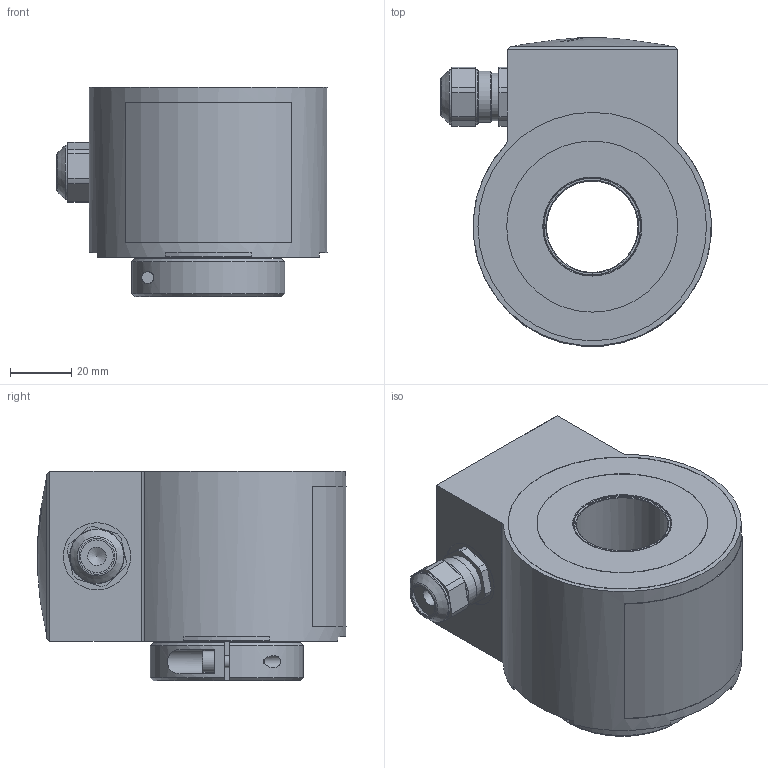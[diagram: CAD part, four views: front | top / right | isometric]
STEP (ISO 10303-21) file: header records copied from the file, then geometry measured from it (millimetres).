
FILE_DESCRIPTION (( 'STEP AP214' ), '1' );
FILE_NAME ('HW730.STEP', '2013-04-29T09:33:43', ( 'inst' ), ( '' ), 'SwSTEP 2.0', 'SolidWorks 2013', '' );
FILE_SCHEMA (( 'AUTOMOTIVE_DESIGN' ));
Length unit declared in the file: millimetre
Products named in the file (1): HW730
Bounding box: 88.46 x 100.87 x 68.58 mm (x, y, z)
Volume: 311522.9 mm3; surface area: 53245.6 mm2
Topology: 3 solids, 3 shells, 231 faces, 542 edges, 348 vertices
Faces by surface type: plane 107, cylinder 67, cone 47, bspline 6, torus 3, sphere 1
Full cylindrical faces by diameter (mm): 3.3 x6, 3.95 x1, 4 x2, 6 x1, 7 x1, 10.7 x1, 12 x1, 12.1 x1, 13.5 x1, 13.93 x1, 14.5 x1, 15.59 x1, 16 x2, 16.2 x1, 16.79 x1, 17.8 x2, 22 x1, 30 x1, 32 x2, 32.001 x1, 40 x1, 43.4 x1, 45 x2, 51.5 x1, 52 x1, 55.5 x1, 56 x2, 74.8 x1
Entity records: 9448 total; most frequent: CARTESIAN_POINT 2016, DIRECTION 1011, ORIENTED_EDGE 874, EDGE_CURVE 437, AXIS2_PLACEMENT_3D 412, EDGE_LOOP 347, VERTEX_POINT 322, FACE_OUTER_BOUND 280
